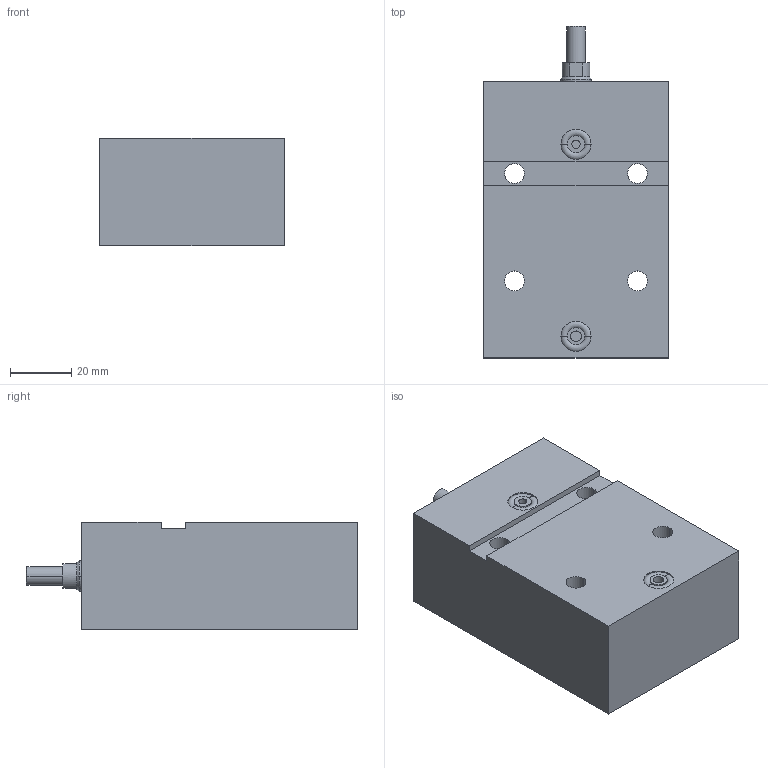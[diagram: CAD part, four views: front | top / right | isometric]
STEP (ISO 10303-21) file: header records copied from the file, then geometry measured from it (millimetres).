
FILE_DESCRIPTION (( 'STEP AP203' ), '1' );
FILE_NAME ('GERMA_Blockzylinder_604-016-050-A.STEP', '2016-01-04T16:18:59', ( '' ), ( '' ), 'SwSTEP 2.0', 'SolidWorks 2015', '' );
FILE_SCHEMA (( 'CONFIG_CONTROL_DESIGN' ));
Length unit declared in the file: millimetre
Products named in the file (3): GH-600-016_GH-604-016-050; Kolben 60x-016_Kolben DU.16-Hub50-AG; GERMA_Blockzylinder_604-016-050-A
Assembly tree (2 placements, depth 2):
  GERMA_Blockzylinder_604-016-050-A
    GH-600-016_GH-604-016-050
    Kolben 60x-016_Kolben DU.16-Hub50-AG
Bounding box: 60 x 108 x 35 mm (x, y, z)
Volume: 177974 mm3; surface area: 31611.8 mm2
Topology: 2 solids, 2 shells, 79 faces, 174 edges, 107 vertices
Faces by surface type: cylinder 37, plane 26, cone 12, torus 4
Entity records: 2484 total; most frequent: DIRECTION 429, CARTESIAN_POINT 361, ORIENTED_EDGE 340, AXIS2_PLACEMENT_3D 175, EDGE_CURVE 170, VERTEX_POINT 107, EDGE_LOOP 99, CIRCLE 91
